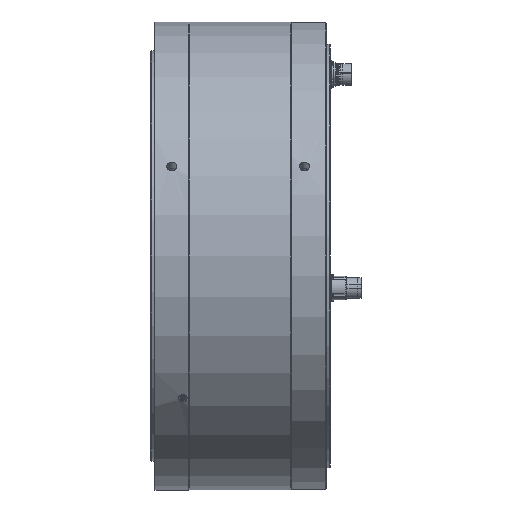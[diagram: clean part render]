
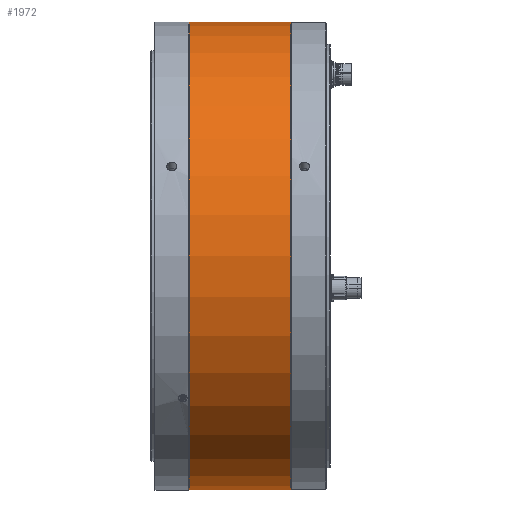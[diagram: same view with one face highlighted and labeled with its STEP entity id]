
A CAD part, front view. The second image highlights one B-rep face of the part: STEP entity #1972.
In plain terms, the highlighted cylindrical face has radius 245 mm (diameter 490 mm), a full revolution.
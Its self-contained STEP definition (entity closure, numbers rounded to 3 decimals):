
#1972 = ADVANCED_FACE( '', ( #4270, #4271 ), #4272, .T. );
#4270 = FACE_OUTER_BOUND( '', #7101, .T. );
#4271 = FACE_OUTER_BOUND( '', #7102, .T. );
#4272 = CYLINDRICAL_SURFACE( '', #7103, 245. );
#7101 = EDGE_LOOP( '', ( #11075 ) );
#7102 = EDGE_LOOP( '', ( #11076 ) );
#7103 = AXIS2_PLACEMENT_3D( '', #11077, #11078, #11079 );
#11075 = ORIENTED_EDGE( '', *, *, #14218, .T. );
#11076 = ORIENTED_EDGE( '', *, *, #14408, .T. );
#11077 = CARTESIAN_POINT( '', ( -60., 0., 0. ) );
#11078 = DIRECTION( '', ( 1., 0., 0. ) );
#11079 = DIRECTION( '', ( 0., 0., 1. ) );
#14218 = EDGE_CURVE( '', #17381, #17381, #17382, .F. );
#14408 = EDGE_CURVE( '', #17643, #17643, #17644, .F. );
#17381 = VERTEX_POINT( '', #20422 );
#17382 = CIRCLE( '', #20423, 245. );
#17643 = VERTEX_POINT( '', #20704 );
#17644 = CIRCLE( '', #20705, 245. );
#20422 = CARTESIAN_POINT( '', ( 0.5, 0., 245. ) );
#20423 = AXIS2_PLACEMENT_3D( '', #23369, #23370, #23371 );
#20704 = CARTESIAN_POINT( '', ( 106.5, 0., -245. ) );
#20705 = AXIS2_PLACEMENT_3D( '', #23623, #23624, #23625 );
#23369 = CARTESIAN_POINT( '', ( 0.5, 0., 0. ) );
#23370 = DIRECTION( '', ( -1., 0., 0. ) );
#23371 = DIRECTION( '', ( 0., 0., 1. ) );
#23623 = CARTESIAN_POINT( '', ( 106.5, 0., 0. ) );
#23624 = DIRECTION( '', ( 1., 0., 0. ) );
#23625 = DIRECTION( '', ( 0., 0., -1. ) );
